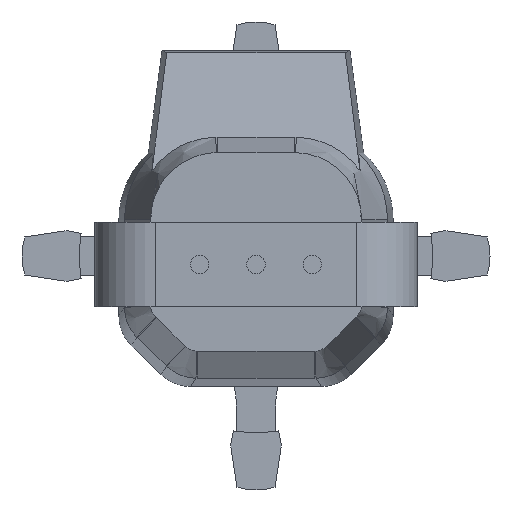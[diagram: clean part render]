
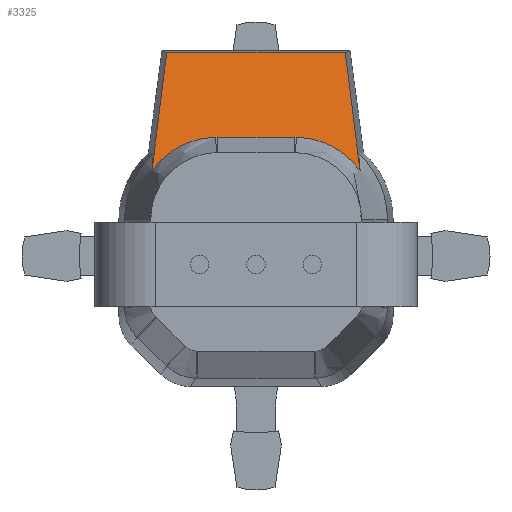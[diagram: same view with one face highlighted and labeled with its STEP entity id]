
A CAD part, front view. The second image highlights one B-rep face of the part: STEP entity #3325.
In plain terms, the highlighted planar face has unit normal (0, -0.977, 0.213) as drawn and (0, 0.213, 0.977) by its records, which use the part's own axes.
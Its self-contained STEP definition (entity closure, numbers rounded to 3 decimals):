
#51=B_SPLINE_CURVE_WITH_KNOTS('',3,(#5459,#5460,#5461,#5462,#5463,#5464),
 .UNSPECIFIED.,.F.,.F.,(4,2,4),(-0.117,-0.058,
0.),.UNSPECIFIED.);
#63=B_SPLINE_CURVE_WITH_KNOTS('',3,(#5736,#5737,#5738,#5739,#5740,#5741,
#5742,#5743),.UNSPECIFIED.,.F.,.F.,(4,2,2,4),(-5.261,-3.749,
-2.24,-0.062),.UNSPECIFIED.);
#70=B_SPLINE_CURVE_WITH_KNOTS('',3,(#5941,#5942,#5943,#5944,#5945,#5946,
#5947,#5948),.UNSPECIFIED.,.F.,.F.,(4,2,2,4),(-5.261,-3.749,
-2.24,-0.062),.UNSPECIFIED.);
#71=B_SPLINE_CURVE_WITH_KNOTS('',3,(#5949,#5950,#5951,#5952,#5953,#5954),
 .UNSPECIFIED.,.F.,.F.,(4,2,4),(-0.117,-0.058,
0.),.UNSPECIFIED.);
#211=PLANE('',#3626);
#477=FACE_OUTER_BOUND('',#667,.T.);
#667=EDGE_LOOP('',(#2884,#2885,#2886,#2887,#2888,#2889,#2890,#2891,#2892,
#2893));
#926=LINE('',#5427,#1231);
#928=LINE('',#5440,#1233);
#957=LINE('',#5922,#1262);
#960=LINE('',#5932,#1265);
#961=LINE('',#5934,#1266);
#963=LINE('',#5939,#1268);
#1231=VECTOR('',#4323,10.);
#1233=VECTOR('',#4327,10.);
#1262=VECTOR('',#4384,10.);
#1265=VECTOR('',#4389,10.);
#1266=VECTOR('',#4392,10.);
#1268=VECTOR('',#4398,10.);
#1566=VERTEX_POINT('',#5424);
#1567=VERTEX_POINT('',#5426);
#1569=VERTEX_POINT('',#5435);
#1570=VERTEX_POINT('',#5457);
#1571=VERTEX_POINT('',#5458);
#1604=VERTEX_POINT('',#5919);
#1605=VERTEX_POINT('',#5921);
#1607=VERTEX_POINT('',#5927);
#1608=VERTEX_POINT('',#5938);
#1609=VERTEX_POINT('',#5940);
#1991=EDGE_CURVE('',#1566,#1567,#926,.T.);
#1995=EDGE_CURVE('',#1569,#1567,#928,.T.);
#1996=EDGE_CURVE('',#1570,#1571,#51,.T.);
#2023=EDGE_CURVE('',#1571,#1569,#63,.T.);
#2047=EDGE_CURVE('',#1605,#1604,#957,.T.);
#2051=EDGE_CURVE('',#1607,#1604,#960,.T.);
#2052=EDGE_CURVE('',#1605,#1566,#961,.T.);
#2054=EDGE_CURVE('',#1570,#1608,#963,.T.);
#2055=EDGE_CURVE('',#1609,#1607,#70,.T.);
#2056=EDGE_CURVE('',#1608,#1609,#71,.T.);
#2884=ORIENTED_EDGE('',*,*,#2054,.F.);
#2885=ORIENTED_EDGE('',*,*,#1996,.T.);
#2886=ORIENTED_EDGE('',*,*,#2023,.T.);
#2887=ORIENTED_EDGE('',*,*,#1995,.T.);
#2888=ORIENTED_EDGE('',*,*,#1991,.F.);
#2889=ORIENTED_EDGE('',*,*,#2052,.F.);
#2890=ORIENTED_EDGE('',*,*,#2047,.T.);
#2891=ORIENTED_EDGE('',*,*,#2051,.F.);
#2892=ORIENTED_EDGE('',*,*,#2055,.F.);
#2893=ORIENTED_EDGE('',*,*,#2056,.F.);
#3325=ADVANCED_FACE('',(#477),#211,.T.);
#3626=AXIS2_PLACEMENT_3D('',#5937,#4396,#4397);
#4323=DIRECTION('',(0.122,-0.97,0.211));
#4327=DIRECTION('',(1.,0.,0.));
#4384=DIRECTION('',(-0.122,-0.97,0.211));
#4389=DIRECTION('',(-1.,0.,0.));
#4392=DIRECTION('',(1.,0.,0.));
#4396=DIRECTION('center_axis',(0.,0.213,
0.977));
#4397=DIRECTION('ref_axis',(1.,0.,0.));
#4398=DIRECTION('',(-1.,0.,0.));
#5424=CARTESIAN_POINT('',(63.318,144.091,154.825));
#5426=CARTESIAN_POINT('',(73.698,61.717,172.77));
#5427=CARTESIAN_POINT('',(65.533,126.518,158.653));
#5435=CARTESIAN_POINT('',(72.849,61.717,172.77));
#5440=CARTESIAN_POINT('',(32.366,61.717,172.77));
#5457=CARTESIAN_POINT('',(27.306,84.175,167.878));
#5458=CARTESIAN_POINT('',(28.473,84.171,167.879));
#5459=CARTESIAN_POINT('Ctrl Pts',(27.306,84.175,167.878));
#5460=CARTESIAN_POINT('Ctrl Pts',(27.5,84.175,167.878));
#5461=CARTESIAN_POINT('Ctrl Pts',(27.695,84.175,167.878));
#5462=CARTESIAN_POINT('Ctrl Pts',(28.084,84.173,167.878));
#5463=CARTESIAN_POINT('Ctrl Pts',(28.279,84.172,167.878));
#5464=CARTESIAN_POINT('Ctrl Pts',(28.473,84.171,167.879));
#5736=CARTESIAN_POINT('Ctrl Pts',(28.473,84.171,167.879));
#5737=CARTESIAN_POINT('Ctrl Pts',(33.51,84.138,167.886));
#5738=CARTESIAN_POINT('Ctrl Pts',(38.514,83.424,168.041));
#5739=CARTESIAN_POINT('Ctrl Pts',(48.18,80.682,168.639));
#5740=CARTESIAN_POINT('Ctrl Pts',(52.791,78.671,169.077));
#5741=CARTESIAN_POINT('Ctrl Pts',(63.229,72.336,170.457));
#5742=CARTESIAN_POINT('Ctrl Pts',(68.58,67.452,171.521));
#5743=CARTESIAN_POINT('Ctrl Pts',(72.849,61.717,172.77));
#5919=CARTESIAN_POINT('',(-73.698,61.717,172.77));
#5921=CARTESIAN_POINT('',(-63.318,144.091,154.825));
#5922=CARTESIAN_POINT('',(-65.533,126.518,158.653));
#5927=CARTESIAN_POINT('',(-72.849,61.717,172.77));
#5932=CARTESIAN_POINT('',(-32.366,61.717,172.77));
#5934=CARTESIAN_POINT('',(25.573,144.091,154.825));
#5937=CARTESIAN_POINT('Origin',(-25.573,102.904,163.798));
#5938=CARTESIAN_POINT('',(-27.306,84.175,167.878));
#5939=CARTESIAN_POINT('',(-21.894,84.175,167.878));
#5940=CARTESIAN_POINT('',(-28.473,84.171,167.879));
#5941=CARTESIAN_POINT('Ctrl Pts',(-28.473,84.171,167.879));
#5942=CARTESIAN_POINT('Ctrl Pts',(-33.51,84.138,167.886));
#5943=CARTESIAN_POINT('Ctrl Pts',(-38.514,83.424,168.041));
#5944=CARTESIAN_POINT('Ctrl Pts',(-48.18,80.682,168.639));
#5945=CARTESIAN_POINT('Ctrl Pts',(-52.791,78.671,169.077));
#5946=CARTESIAN_POINT('Ctrl Pts',(-63.229,72.336,170.457));
#5947=CARTESIAN_POINT('Ctrl Pts',(-68.58,67.452,171.521));
#5948=CARTESIAN_POINT('Ctrl Pts',(-72.849,61.717,172.77));
#5949=CARTESIAN_POINT('Ctrl Pts',(-27.306,84.175,167.878));
#5950=CARTESIAN_POINT('Ctrl Pts',(-27.5,84.175,167.878));
#5951=CARTESIAN_POINT('Ctrl Pts',(-27.695,84.175,167.878));
#5952=CARTESIAN_POINT('Ctrl Pts',(-28.084,84.173,167.878));
#5953=CARTESIAN_POINT('Ctrl Pts',(-28.279,84.172,167.878));
#5954=CARTESIAN_POINT('Ctrl Pts',(-28.473,84.171,167.879));
